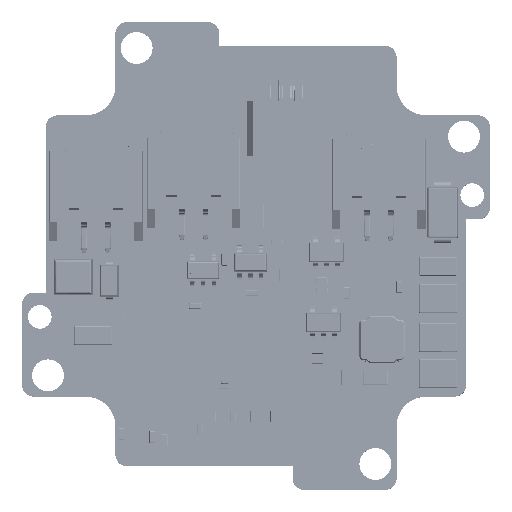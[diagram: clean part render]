
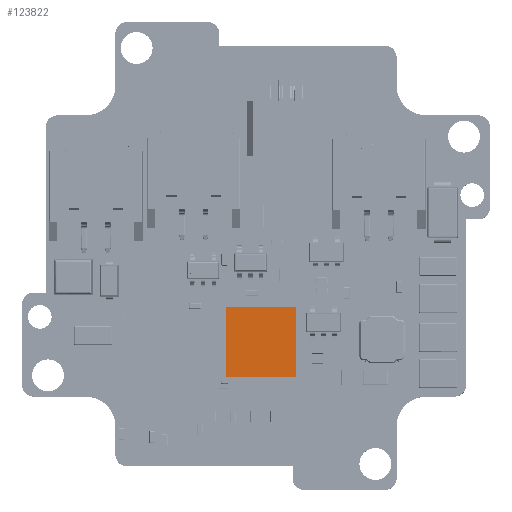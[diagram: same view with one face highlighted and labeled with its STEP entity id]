
A CAD part, top view. The second image highlights one B-rep face of the part: STEP entity #123822.
In plain terms, the highlighted planar face has unit normal (0, 0, 1).
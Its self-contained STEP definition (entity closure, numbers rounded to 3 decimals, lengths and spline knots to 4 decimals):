
#42738=FACE_OUTER_BOUND('',#153156,.T.);
#63703=LINE('',#458586,#95988);
#63704=LINE('',#458589,#95989);
#63705=LINE('',#458591,#95990);
#63706=LINE('',#458593,#95991);
#95988=VECTOR('',#367306,1.);
#95989=VECTOR('',#367307,1.);
#95990=VECTOR('',#367308,1.);
#95991=VECTOR('',#367309,1.);
#123822=ADVANCED_FACE('',(#42738),#139441,.T.);
#139441=PLANE('',#330337);
#153156=EDGE_LOOP('',(#187258,#187259,#187260,#187261));
#187258=ORIENTED_EDGE('',*,*,#286886,.T.);
#187259=ORIENTED_EDGE('',*,*,#286887,.T.);
#187260=ORIENTED_EDGE('',*,*,#286888,.T.);
#187261=ORIENTED_EDGE('',*,*,#286889,.T.);
#255188=VERTEX_POINT('',#458587);
#255189=VERTEX_POINT('',#458588);
#255190=VERTEX_POINT('',#458590);
#255191=VERTEX_POINT('',#458592);
#286886=EDGE_CURVE('',#255188,#255189,#63703,.T.);
#286887=EDGE_CURVE('',#255189,#255190,#63704,.T.);
#286888=EDGE_CURVE('',#255190,#255191,#63705,.T.);
#286889=EDGE_CURVE('',#255191,#255188,#63706,.T.);
#330337=AXIS2_PLACEMENT_3D('',#458594,#367310,#367311);
#367306=DIRECTION('',(0.,-1.,0.));
#367307=DIRECTION('',(1.,0.,0.));
#367308=DIRECTION('',(0.,1.,0.));
#367309=DIRECTION('',(-1.,0.,0.));
#367310=DIRECTION('',(0.,0.,1.));
#367311=DIRECTION('',(0.,-1.,0.));
#458586=CARTESIAN_POINT('',(-2.574,-4.2825,3.7));
#458587=CARTESIAN_POINT('',(-2.574,-4.2825,3.7));
#458588=CARTESIAN_POINT('',(-2.574,-10.2825,3.7));
#458589=CARTESIAN_POINT('',(-2.574,-10.2825,3.7));
#458590=CARTESIAN_POINT('',(3.426,-10.2825,3.7));
#458591=CARTESIAN_POINT('',(3.426,-10.2825,3.7));
#458592=CARTESIAN_POINT('',(3.426,-4.2825,3.7));
#458593=CARTESIAN_POINT('',(3.426,-4.2825,3.7));
#458594=CARTESIAN_POINT('',(0.426,-7.2825,3.7));
